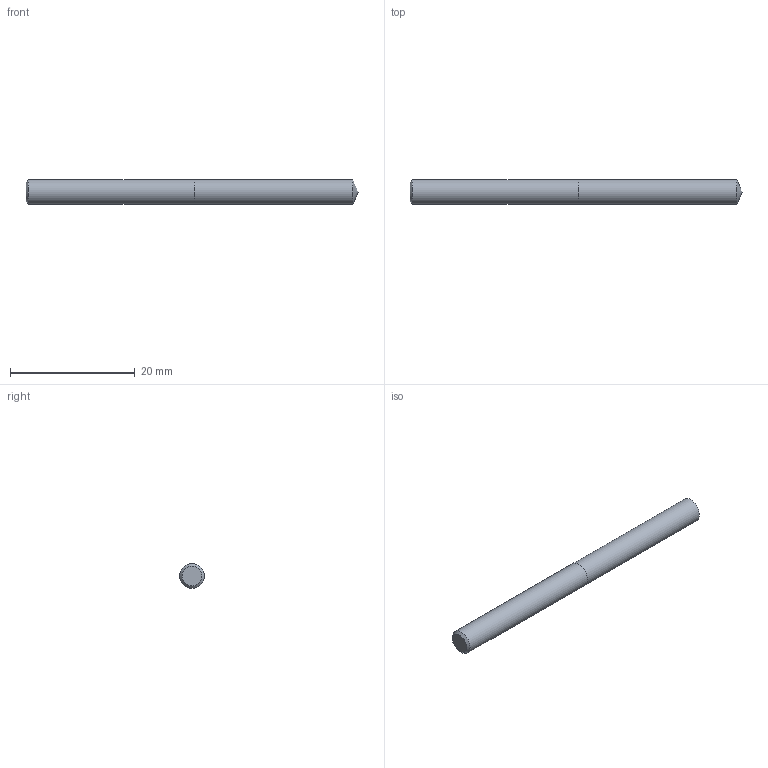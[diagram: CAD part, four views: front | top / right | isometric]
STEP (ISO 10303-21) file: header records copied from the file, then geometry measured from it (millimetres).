
FILE_DESCRIPTION (( 'STEP AP214' ), '1' );
FILE_NAME ('03-2409.STEP', '2022-06-03T07:23:14', ( 'USER' ), ( '' ), 'SwSTEP 2.0', 'SolidWorks 2018', '' );
FILE_SCHEMA (( 'AUTOMOTIVE_DESIGN' ));
Length unit declared in the file: inch
Products named in the file (1): 03-2409
Bounding box: 53.21 x 3.97 x 3.97 mm (x, y, z)
Volume: 650.5 mm3; surface area: 700.6 mm2
Topology: 2 solids, 2 shells, 7 faces, 11 edges, 7 vertices
Faces by surface type: plane 3, cylinder 2, cone 2
Full cylindrical faces by diameter (mm): 3.969 x2
Entity records: 214 total; most frequent: DIRECTION 26, CARTESIAN_POINT 18, AXIS2_PLACEMENT_3D 13, EDGE_LOOP 10, ORIENTED_EDGE 10, FACE_OUTER_BOUND 9, LENGTH_MEASURE_WITH_UNIT 7, DIMENSIONAL_EXPONENTS 7
